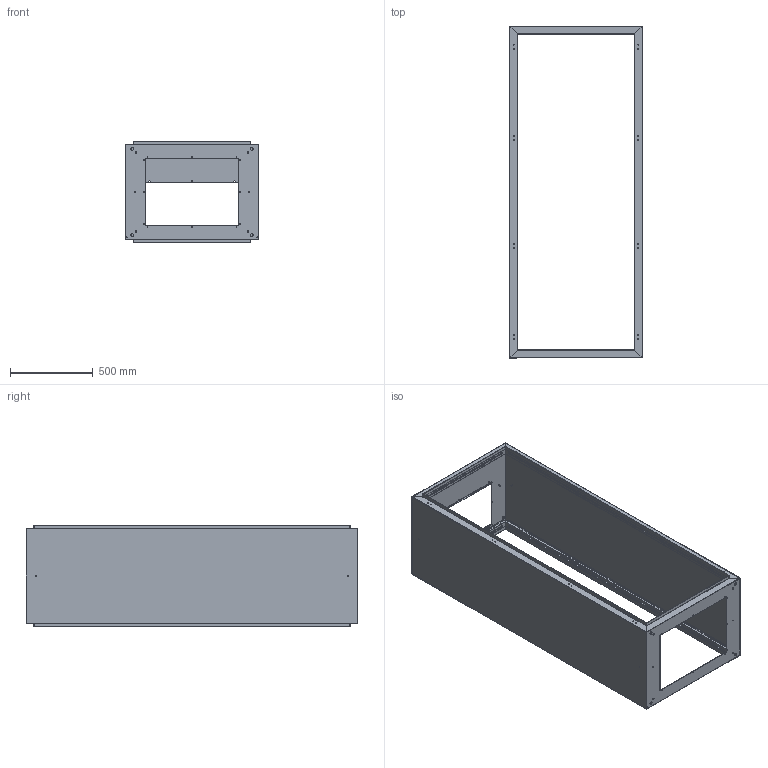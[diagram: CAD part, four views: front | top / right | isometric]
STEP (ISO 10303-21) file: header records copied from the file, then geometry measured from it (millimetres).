
FILE_DESCRIPTION (( 'STEP AP203' ), '1' );
FILE_NAME ('800x2000x600.STEP', '2021-11-11T16:54:13', ( '' ), ( '' ), 'SwSTEP 2.0', 'SolidWorks 2019', '' );
FILE_SCHEMA (( 'CONFIG_CONTROL_DESIGN' ));
Length unit declared in the file: millimetre
Products named in the file (4): 800x2000x600; Alt Kapak 1,5mm_monoblok_tekkapakrevize_PP 16.1021 800Gx600D ALT; Yan Kapak 1,5mm_monoblok_tekkapakrevize_PP 16.1008 - 2000Yx600D YAN; Üst Kapak 1,5mm_monoblok_tekkapakrevize_PP 16.1012 800Gx600D šST
Assembly tree (4 placements, depth 2):
  800x2000x600
    Alt Kapak 1,5mm_monoblok_tekkapakrevize_PP 16.1021 800Gx600D ALT
    Üst Kapak 1,5mm_monoblok_tekkapakrevize_PP 16.1012 800Gx600D šST
    Yan Kapak 1,5mm_monoblok_tekkapakrevize_PP 16.1008 - 2000Yx600D YAN  x2
Bounding box: 800 x 2000 x 612 mm (x, y, z)
Volume: 6419067.5 mm3; surface area: 8655087.3 mm2
Topology: 4 solids, 4 shells, 5416 faces, 15960 edges, 10560 vertices
Faces by surface type: plane 3528, cylinder 1872, bspline 16
Entity records: 121574 total; most frequent: CARTESIAN_POINT 21143, ORIENTED_EDGE 20632, DIRECTION 19706, EDGE_CURVE 10316, LINE 7892, VECTOR 7892, VERTEX_POINT 6816, AXIS2_PLACEMENT_3D 5907
